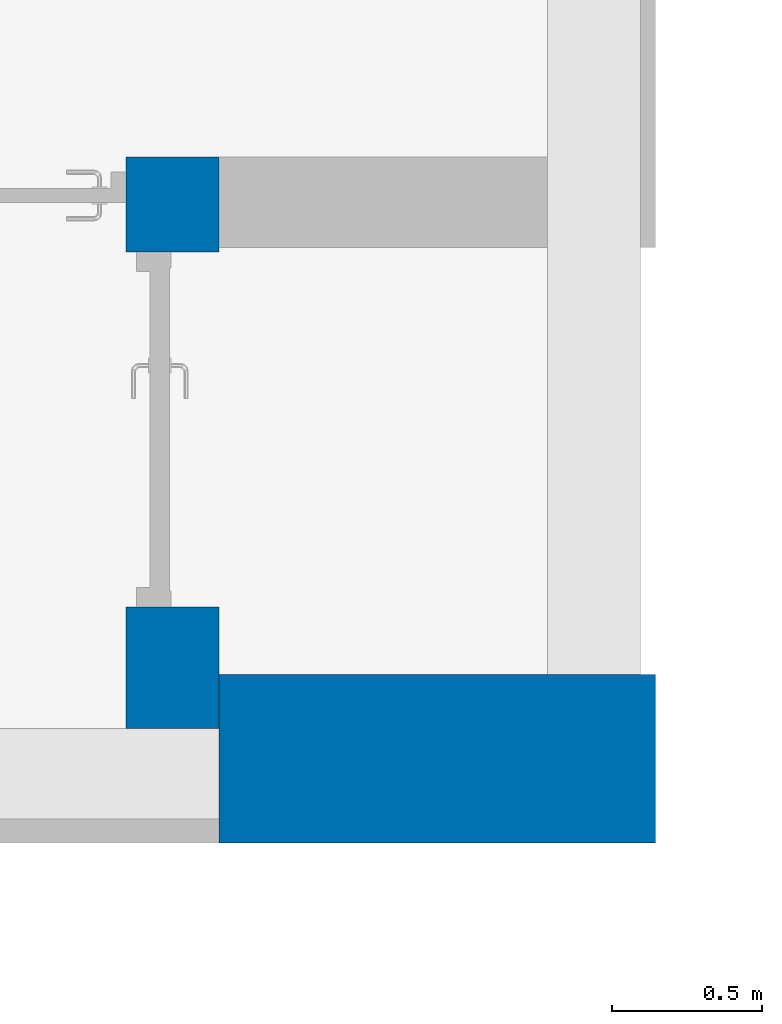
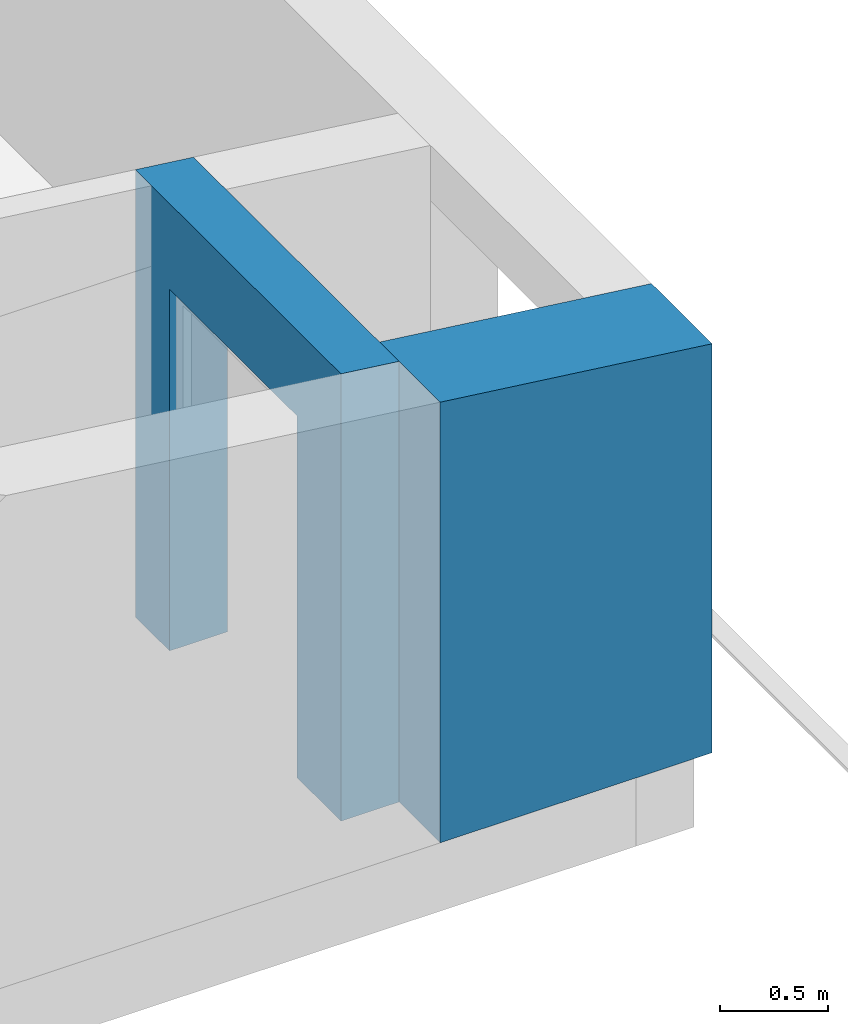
# One storey, part 158 of 301: 2 walls, 1 opening.
"""IFC2X3 building model written with IfcOpenShell, lengths in millimetres."""

import ifcopenshell
import ifcopenshell.guid

model = None  # the IFC model being written
_history = None  # IfcOwnerHistory: only IFC2X3 demands one
_inside = {}  # id of a spatial element -> (the spatial element, [elements in it])
_under = {}  # id of a project, library or spatial element -> (it, [spatial elements below it])
_declared = {}  # id of a project -> (the project, [libraries it declares])
_typed = {}  # id of a type object -> (the type object, [elements of that type])
_made_of = {}  # id of a material, layer set ... -> (it, [elements and type objects made of it])


def new_model(schema):
    """Start an empty IFC model of exactly this schema.

    Asked for "IFC4X3", IfcOpenShell would pick the latest addendum, in which some entities
    have other attributes; the version numbers below select the first issue.
    IFC2X3 requires an IfcOwnerHistory on every rooted entity: one is made here for all.
    """
    global model, _history
    if schema == "IFC4X3":
        model = ifcopenshell.file(schema_version=(4, 3, 0, 0))
    else:
        model = ifcopenshell.file(schema=schema)
    _inside.clear()
    _under.clear()
    _declared.clear()
    _typed.clear()
    _made_of.clear()
    _history = None
    if model.schema == "IFC2X3":
        org = make("IfcOrganization", Name="unknown")
        user = make(
            "IfcPersonAndOrganization",
            ThePerson=make("IfcPerson", FamilyName="unknown"),
            TheOrganization=org,
        )
        app = make(
            "IfcApplication",
            ApplicationDeveloper=org,
            Version="unknown",
            ApplicationFullName="unknown",
            ApplicationIdentifier="unknown",
        )
        _history = make(
            "IfcOwnerHistory",
            OwningUser=user,
            OwningApplication=app,
            ChangeAction="ADDED",
            CreationDate=0,
        )
    return model


def make(cls, **values):
    """One entity of the class cls with the attributes given. An attribute that is None is left unset."""
    return model.create_entity(
        cls, **{name: value for name, value in values.items() if value is not None}
    )


def entity(cls, *values):
    """Any entity or typed value of the class cls, its attributes in the order of the schema. None: left unset."""
    e = model.create_entity(cls)
    for i, value in enumerate(values):
        if value is not None:
            e[i] = value
    return e


def rooted(cls, **values):
    """An entity with a GlobalId (a new one), such as an element, a storey or a relation."""
    return make(cls, GlobalId=ifcopenshell.guid.new(), OwnerHistory=_history, **values)


def si_unit(unit_type, name, prefix=None):
    """IfcSIUnit, for example si_unit("LENGTHUNIT", "METRE", prefix="MILLI")."""
    return make("IfcSIUnit", UnitType=unit_type, Prefix=prefix, Name=name)


def converted_unit(unit_type, name, factor, base, dimensions=None, offset=None):
    """IfcConversionBasedUnit, such as the inch: factor (a typed value) times the base unit."""
    return make(
        "IfcConversionBasedUnit"
        if offset is None
        else "IfcConversionBasedUnitWithOffset",
        ConversionOffset=offset,
        Dimensions=None
        if dimensions is None
        else entity("IfcDimensionalExponents", *dimensions),
        UnitType=unit_type,
        Name=name,
        ConversionFactor=make(
            "IfcMeasureWithUnit", ValueComponent=factor, UnitComponent=base
        ),
    )


def derived_unit(unit_type, elements):
    """IfcDerivedUnit: a product of units, each with its exponent."""
    return make(
        "IfcDerivedUnit",
        Elements=[
            make("IfcDerivedUnitElement", Unit=unit, Exponent=power)
            for unit, power in elements
        ],
        UnitType=unit_type,
    )


def money_unit(currency):
    """IfcMonetaryUnit."""
    return make("IfcMonetaryUnit", Currency=currency)


def assignment(units):
    """IfcUnitAssignment: the units of a project."""
    return None if units is None else make("IfcUnitAssignment", Units=units)


def point(xyz):
    """IfcCartesianPoint."""
    return None if xyz is None else make("IfcCartesianPoint", Coordinates=xyz)


def direction(xyz):
    """IfcDirection."""
    return None if xyz is None else make("IfcDirection", DirectionRatios=xyz)


def frame(location, z_axis=None, x_axis=None):
    """IfcAxis2Placement3D, a coordinate frame: its origin and axes. An axis left out is left unset."""
    return make(
        "IfcAxis2Placement3D",
        Location=point(location),
        Axis=direction(z_axis),
        RefDirection=direction(x_axis),
    )


def origin_with_axes():
    """The frame at (0, 0, 0) with the z axis (0, 0, 1) and the x axis (1, 0, 0) written out."""
    return frame((0.0, 0.0, 0.0), z_axis=(0.0, 0.0, 1.0), x_axis=(1.0, 0.0, 0.0))


def place(relative_to, where):
    """IfcLocalPlacement: puts the frame where relative to a parent placement (None: the world)."""
    return make(
        "IfcLocalPlacement", PlacementRelTo=relative_to, RelativePlacement=where
    )


def context(
    kind, dimensions, precision=None, world=None, true_north=None, identifier=None
):
    """IfcGeometricRepresentationContext, for example the 3D "Model" context."""
    return make(
        "IfcGeometricRepresentationContext",
        ContextIdentifier=identifier,
        ContextType=kind,
        CoordinateSpaceDimension=dimensions,
        Precision=precision,
        WorldCoordinateSystem=world,
        TrueNorth=true_north,
    )


def subcontext(parent, identifier, kind, view, scale=None):
    """IfcGeometricRepresentationSubContext, for example "Body" below "Model"."""
    return make(
        "IfcGeometricRepresentationSubContext",
        ContextIdentifier=identifier,
        ContextType=kind,
        ParentContext=parent,
        TargetScale=scale,
        TargetView=view,
    )


def project(units=None, contexts=None):
    """IfcProject with its units and contexts."""
    return rooted(
        "IfcProject",
        Name="project",
        RepresentationContexts=contexts,
        UnitsInContext=assignment(units),
    )


def spatial(cls, under=None, at=None, **own):
    """A site, building, storey or space (cls), placed at a placement, below another one or the project."""
    s = rooted(cls, ObjectPlacement=at, **own)
    if under is not None:
        _under.setdefault(under.id(), (under, []))[1].append(s)
    return s


def faces_of(points, faces, orient=None, outer=None):
    """IfcFace entities. A face is a list of loops; a loop is a list of indices into points, from 0.

    orient and outer hold one flag for each loop. By default every Orientation is true, the
    first loop of a face is its IfcFaceOuterBound and the others are IfcFaceBound.
    """
    made = []
    for i, loops in enumerate(faces):
        bounds = []
        for j, loop in enumerate(loops):
            is_outer = j == 0 if outer is None else outer[i][j]
            bounds.append(
                make(
                    "IfcFaceOuterBound" if is_outer else "IfcFaceBound",
                    Bound=make("IfcPolyLoop", Polygon=[points[k] for k in loop]),
                    Orientation=True if orient is None else orient[i][j],
                )
            )
        made.append(make("IfcFace", Bounds=bounds))
    return made


def faceted_brep(points, faces, orient=None, outer=None, voids=None):
    """IfcFacetedBrep: a solid bounded by flat faces; with voids (closed shells), ...WithVoids."""
    shared = [point(p) for p in points]
    hull = make("IfcClosedShell", CfsFaces=faces_of(shared, faces, orient, outer))
    if voids is None:
        return make("IfcFacetedBrep", Outer=hull)
    return make(
        "IfcFacetedBrepWithVoids",
        Outer=hull,
        Voids=[
            make(cls, CfsFaces=faces_of(shared, fs, o, b)) for cls, fs, o, b in voids
        ],
    )


def shape(context_of_items, identifier, shape_type, items):
    """IfcShapeRepresentation: the items that make up one representation, for example the "Body"."""
    return make(
        "IfcShapeRepresentation",
        ContextOfItems=context_of_items,
        RepresentationIdentifier=identifier,
        RepresentationType=shape_type,
        Items=items,
    )


def material(Name=None, Category=None):
    """IfcMaterial."""
    return make("IfcMaterial", Name=Name, Category=Category)


def made_of(thing, what):
    """Note that an element or type object is made of a material, layer set ...; save() writes the relation."""
    if what is not None:
        _made_of.setdefault(what.id(), (what, []))[1].append(thing)
    return thing


def type_object(cls, material=None, **own):
    """A type object (cls), such as IfcWallType, which elements share."""
    return made_of(rooted(cls, **own), material)


def element(
    cls,
    number,
    at=None,
    inside=None,
    cuts=None,
    type_object=None,
    material=None,
    context=None,
    identifier="Body",
    shape_type=None,
    held_by="IfcProductDefinitionShape",
    body=None,
    shapes=None,
    **own,
):
    """One element of the class cls, such as IfcWall. Its Tag is "e" and its number.

    at: its placement. inside: the storey or other place that contains it. cuts: it is an
    opening in that element (IfcRelVoidsElement). A single representation is given by context,
    identifier, shape_type and body (its items); several are given by shapes. held_by: the class
    of the entity that holds the representations. save() writes the other relations.
    """
    e = rooted(cls, Tag="e%d" % number, ObjectPlacement=at, **own)
    if body is not None:
        shapes = [shape(context, identifier, shape_type, body)]
    if shapes is not None:
        e.Representation = make(held_by, Representations=shapes)
    if inside is not None:
        _inside.setdefault(inside.id(), (inside, []))[1].append(e)
    if cuts is not None:
        rooted(
            "IfcRelVoidsElement", RelatingBuildingElement=cuts, RelatedOpeningElement=e
        )
    if type_object is not None:
        _typed.setdefault(type_object.id(), (type_object, []))[1].append(e)
    return made_of(e, material)


def aggregate(whole, parts):
    """IfcRelAggregates: a whole, such as a stair, and the parts it consists of."""
    return rooted("IfcRelAggregates", RelatingObject=whole, RelatedObjects=parts)


def save(model, path):
    """Write the relations noted so far, then the file.

    IfcRelAggregates (storeys below a building ...), IfcRelContainedInSpatialStructure (elements
    in a storey), IfcRelDefinesByType, IfcRelAssociatesMaterial and IfcRelDeclares: one each for
    every whole, place, type object, material and project.
    """
    for whole, parts in _under.values():
        aggregate(whole, parts)
    for where, things in _inside.values():
        rooted(
            "IfcRelContainedInSpatialStructure",
            RelatedElements=things,
            RelatingStructure=where,
        )
    for kind, things in _typed.values():
        rooted("IfcRelDefinesByType", RelatedObjects=things, RelatingType=kind)
    for what, things in _made_of.values():
        rooted("IfcRelAssociatesMaterial", RelatedObjects=things, RelatingMaterial=what)
    for by, libraries in _declared.values():
        rooted("IfcRelDeclares", RelatingContext=by, RelatedDefinitions=libraries)
    model.write(path)


model = new_model("IFC2X3")

# Units and contexts
model_context = context("Model", 3, precision=0.01, world=origin_with_axes(), true_north=direction((0.0, 1.0)))
body_context = subcontext(model_context, "Body", "Model", "MODEL_VIEW")
ifc_project = project(units=[si_unit("LENGTHUNIT", "METRE", prefix="MILLI"), si_unit("AREAUNIT", "SQUARE_METRE"), si_unit("VOLUMEUNIT", "CUBIC_METRE"), converted_unit("PLANEANGLEUNIT", "DEGREE", entity("IfcPlaneAngleMeasure", 0.0174532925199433), si_unit("PLANEANGLEUNIT", "RADIAN"), dimensions=[0, 0, 0, 0, 0, 0, 0]), money_unit("EUR"), converted_unit("TIMEUNIT", "Year", entity("IfcTimeMeasure", 31557600.0), si_unit("TIMEUNIT", "SECOND"), dimensions=[0, 0, 1, 0, 0, 0, 0]), si_unit("MASSUNIT", "GRAM", prefix="KILO"), si_unit("THERMODYNAMICTEMPERATUREUNIT", "DEGREE_CELSIUS"), si_unit("LUMINOUSINTENSITYUNIT", "LUMEN"), si_unit("ENERGYUNIT", "JOULE", prefix="MEGA"), derived_unit("THERMALCONDUCTANCEUNIT", [(si_unit("POWERUNIT", "WATT"), 1), (si_unit("LENGTHUNIT", "METRE"), -1), (si_unit("THERMODYNAMICTEMPERATUREUNIT", "KELVIN"), -1)]), derived_unit("SPECIFICHEATCAPACITYUNIT", [(si_unit("ENERGYUNIT", "JOULE"), 1), (si_unit("MASSUNIT", "GRAM", prefix="KILO"), -1), (si_unit("THERMODYNAMICTEMPERATUREUNIT", "KELVIN"), -1)]), derived_unit("MASSDENSITYUNIT", [(si_unit("MASSUNIT", "GRAM", prefix="KILO"), 1), (si_unit("VOLUMEUNIT", "CUBIC_METRE"), -1)])], contexts=[model_context])

# Site, building, storey
site_placement = place(None, frame((0.0, 0.0, 8650.0), z_axis=(0.0, 0.0, 1.0), x_axis=(1.0, 0.0, 0.0)))
site = spatial("IfcSite", under=ifc_project, at=site_placement, Name="43301:001:0844", CompositionType="ELEMENT")
building_placement = place(site_placement, origin_with_axes())
building = spatial("IfcBuilding", under=site, at=building_placement, Name="Kuressaare Ametikooli tuulikute mehaanikute õppekorpus", CompositionType="ELEMENT")
storey_placement = place(building_placement, origin_with_axes())
storey = spatial("IfcBuildingStorey", under=building, at=storey_placement, Name="1.korrus", CompositionType="ELEMENT", Elevation=0.0)

# Wall
ifc_material = material(Name="GENEERILINE - KONSTRUKTRIOON")
wall_type_1 = type_object("IfcWallType", Name="GENEERILINE - KONSTRUKTRIOON 560", PredefinedType="NOTDEFINED")
wall_1_placement = place(storey_placement, frame((136130.4547532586, 31928.82728576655, 0.0), z_axis=(0.0, 0.0, 1.0), x_axis=(-1.0, 0.0, 0.0)))
element("IfcWall", 1, at=wall_1_placement, inside=storey, type_object=wall_type_1, material=ifc_material, Name="VS-XX", context=body_context, shape_type="Brep", body=[
    faceted_brep([(1451.098581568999, -559.9999999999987, 2485.5275075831), (0.0, -559.9999999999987, 2307.355005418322), (0.0, -559.9999999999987, 0.0), (1451.098581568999, -559.9999999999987, 0.0), (0.0, -4.688374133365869e-07, 2307.355004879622), (1451.098581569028, -4.688374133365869e-07, 2485.527507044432), (0.0, 0.0, 0.0), (1451.098581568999, 0.0, 0.0)], [[[0, 1, 2, 3]], [[4, 1, 0, 5]], [[1, 4, 6, 2]], [[6, 7, 3, 2]], [[5, 0, 3, 7]], [[4, 5, 7, 6]]]),
])

# Wall, opening
wall_type_2 = type_object("IfcWallType", Name="GENEERILINE - KONSTRUKTRIOON 310", PredefinedType="NOTDEFINED")
wall_2_placement = place(storey_placement, frame((134679.3561716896, 33908.58436508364, 0.0), z_axis=(0.0, 0.0, 1.0), x_axis=(0.0, -1.0, 0.0)))
wall_2 = element("IfcWall", 2, at=wall_2_placement, inside=storey, type_object=wall_type_2, material=ifc_material, Name="VS-XX", context=body_context, shape_type="Brep", body=[
    faceted_brep([(1195.843120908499, 0.0, 2040.0), (1195.843120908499, -310.0000000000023, 2040.0), (15.84312090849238, -310.0000000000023, 2040.0), (15.84312090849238, 0.0, 2040.0), (1195.843120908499, -159.9999999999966, 0.0), (1195.843120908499, -310.0000000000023, 0.0), (1195.843120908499, 0.0, 0.0), (1599.757079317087, -310.0000000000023, 0.0), (1599.757079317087, -310.0000000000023, 2523.590721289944), (-299.9999999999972, -310.0000000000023, 2523.590723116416), (-299.9999999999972, -310.0000000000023, 0.0), (15.84312090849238, -310.0000000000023, 0.0), (15.84312090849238, -159.9999999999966, 0.0), (15.84312090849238, 0.0, 0.0), (-299.9999999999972, 0.0, 2485.527509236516), (1599.757079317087, 0.0, 2485.527507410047), (1599.757079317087, 0.0, 0.0), (-299.9999999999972, 0.0, 0.0)], [[[0, 1, 2, 3]], [[4, 5, 1, 0, 6]], [[1, 5, 7, 8, 9, 10, 11, 2]], [[3, 2, 11, 12, 13]], [[14, 15, 16, 6, 0, 3, 13, 17]], [[5, 4, 6, 16, 7]], [[15, 8, 7, 16]], [[14, 9, 8, 15]], [[14, 17, 10, 9]], [[12, 11, 10, 17, 13]]]),
])
opening_placement = place(wall_2_placement, frame((605.8431209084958, 0.0, 0.0), z_axis=(0.0, 0.0, 1.0), x_axis=(1.0, 0.0, 0.0)))
element("IfcOpeningElement", 3, at=opening_placement, cuts=wall_2, context=body_context, shape_type="Brep", body=[
    faceted_brep([(-590.0000000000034, -159.9999999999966, 0.0), (-590.0000000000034, -159.9999999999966, 2040.0), (-590.0000000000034, 1.000000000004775, 2040.0), (-590.0000000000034, 1.000000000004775, 0.0), (-590.0000000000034, -311.000000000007, 0.0), (-590.0000000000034, -311.000000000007, 2040.0), (590.0000000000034, -159.9999999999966, 2040.0), (590.0000000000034, 1.000000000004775, 2040.0), (590.0000000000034, -311.000000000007, 2040.0), (590.0000000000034, 1.000000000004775, 0.0), (590.0000000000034, -159.9999999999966, 0.0), (590.0000000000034, -311.000000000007, 0.0)], [[[0, 1, 2, 3]], [[1, 0, 4, 5]], [[6, 7, 2, 1, 5, 8]], [[7, 9, 3, 2]], [[0, 3, 9, 10, 11, 4]], [[5, 4, 11, 8]], [[6, 10, 9, 7]], [[10, 6, 8, 11]]]),
])

save(model, "model.ifc")
